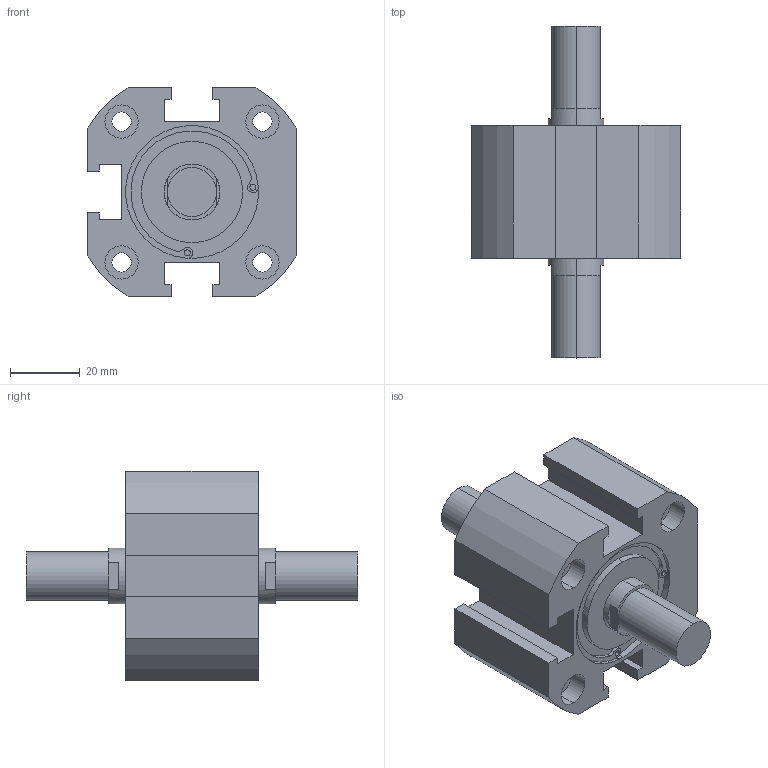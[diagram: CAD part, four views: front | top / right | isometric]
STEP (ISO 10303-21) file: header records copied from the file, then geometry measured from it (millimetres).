
FILE_DESCRIPTION (( 'STEP AP203' ), '1' );
FILE_NAME ('XC#M7-40-10.STEP', '2016-05-23T08:56:53', ( '' ), ( '' ), 'SwSTEP 2.0', 'SolidWorks 2014', '' );
FILE_SCHEMA (( 'CONFIG_CONTROL_DESIGN' ));
Length unit declared in the file: millimetre
Products named in the file (1): XC#M7-40-10
Bounding box: 60 x 95 x 60 mm (x, y, z)
Volume: 111621.6 mm3; surface area: 24189.8 mm2
Topology: 1 solids, 1 shells, 149 faces, 369 edges, 240 vertices
Faces by surface type: cylinder 77, plane 64, cone 8
Entity records: 4546 total; most frequent: DIRECTION 839, CARTESIAN_POINT 755, ORIENTED_EDGE 730, EDGE_CURVE 365, AXIS2_PLACEMENT_3D 324, VERTEX_POINT 240, LINE 191, VECTOR 191
